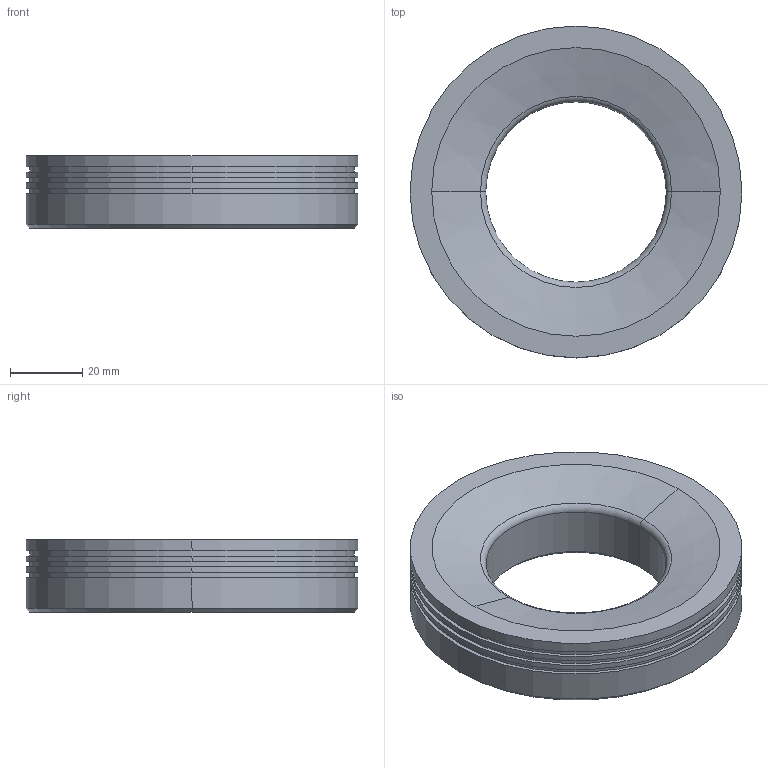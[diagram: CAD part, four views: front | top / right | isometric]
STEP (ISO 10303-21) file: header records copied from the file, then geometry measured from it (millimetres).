
FILE_DESCRIPTION((''),'2;1');
FILE_NAME('DRL7030','2020-03-28T',('ASUS'),(''),'PRO/ENGINEER BY PARAMETRIC TECHNOLOGY CORPORATION, 2008380','PRO/ENGINEER BY PARAMETRIC TECHNOLOGY CORPORATION, 2008380','');
FILE_SCHEMA(('CONFIG_CONTROL_DESIGN'));
Length unit declared in the file: millimetre
Products named in the file (1): DRL7030
Bounding box: 92 x 92 x 20 mm (x, y, z)
Volume: 86256.1 mm3; surface area: 19567.4 mm2
Topology: 1 solids, 5 shells, 68 faces, 152 edges, 92 vertices
Faces by surface type: cylinder 32, cone 22, plane 12, torus 2
Entity records: 1901 total; most frequent: DIRECTION 372, CARTESIAN_POINT 305, ORIENTED_EDGE 272, AXIS2_PLACEMENT_3D 159, EDGE_CURVE 144, VERTEX_POINT 92, CIRCLE 90, EDGE_LOOP 84
